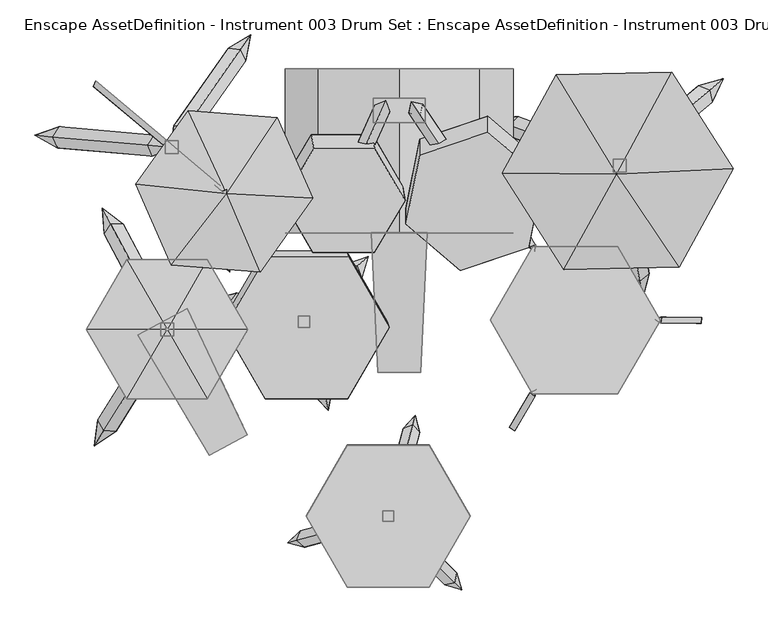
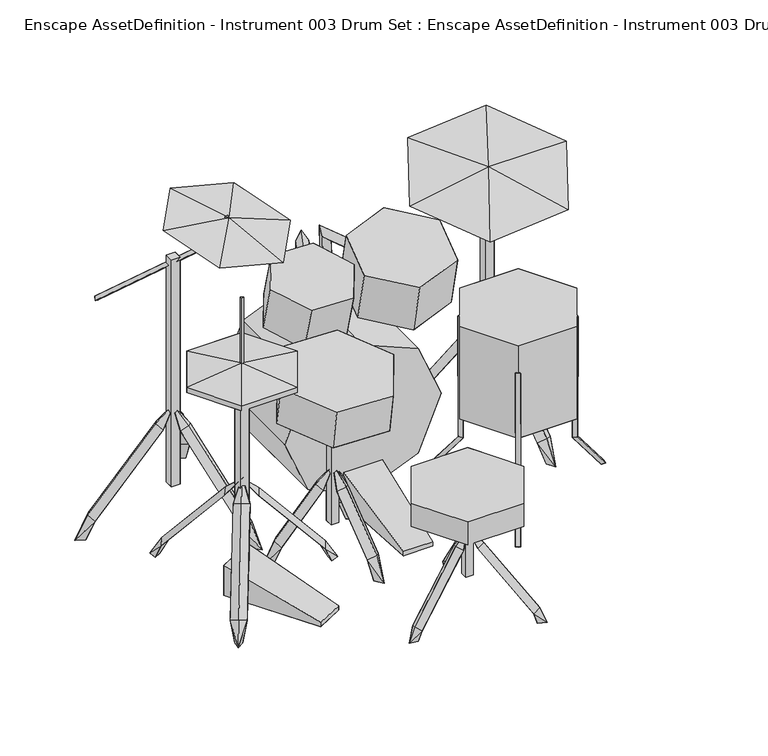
"""IFC4 building model written with IfcOpenShell, lengths in millimetres: geographic element geometry, Enscape AssetDefinition - Instrument 003 Drum Set : Enscape AssetDefinition - Instrument 003 Drum Set."""

from ifc_helpers import new_model, si_unit, origin, place, context, project, spatial, triangles, source, transform, mapped, element, save


def enscape_assetdefinition_instrument_003_drum_set_enscape_302b556b(model_context):
    return source(origin(), model_context, "Body", "Tessellation", [
        triangles([(-50.4830014, -306.7600184, 0.0), (50.8199994, -306.7600184, 15.259), (-66.1860037, 22.1500015, 109.8880055), (-50.4830014, -306.7600184, 15.259), (-66.1860037, 22.1500015, 0.0), (50.8199994, -306.7600184, 0.0), (66.5230016, 22.1500015, 0.0), (66.5230016, 22.1500015, 109.8880055), (268.3070058, 407.7799788, 280.0000058), (189.7239936, 407.7799788, 90.2839968), (268.3070058, 20.9369987, 280.0000058), (189.7239936, 20.9369987, 469.7160238), (189.7239936, 407.7799788, 469.7160238), (0.008, 407.7799788, 548.2990179), (0.008, 20.9369987, 548.2980005), (0.008, 407.7799788, 11.7019997), (0.008, 20.9369987, 11.7019997), (189.7239936, 20.9369987, 90.2839968), (-189.707988, 20.9369987, 469.7160238), (-268.2900192, 20.9369987, 280.0000058), (-189.707988, 20.9369987, 90.2839968), (0.008, 20.9369987, 280.0000058), (-189.707988, 407.7799788, 469.7160238), (0.008, 407.7799788, 280.0000058), (-268.2900192, 407.7799788, 280.0000058), (-189.707988, 407.7799788, 90.2839968), (-549.8189833, 237.5389893, 113.2869986), (-519.2540248, 237.5389893, 113.2869986), (-549.8189833, 206.9729952, 113.2869986), (-519.2540248, 206.9729952, 113.2869986), (-519.2540248, 206.9729952, 936.1980154), (-549.8189833, 206.9729952, 936.1980154), (-549.8189833, 237.5389893, 936.1980154), (-519.2540248, 237.5389893, 936.1980154), (-856.1669992, 250.5500047, -0.451), (-827.0870155, 236.4549893, -0.427), (-825.0199905, 260.0800007, -0.427), (-803.0210426, 220.5319968, 68.1940025), (-798.6160063, 270.8840106, 68.1940025), (-813.8920361, 246.8519928, 79.2059938), (-576.210977, 251.426005, 334.2579766), (-580.6169944, 201.0740094, 334.2579766), (-591.4870068, 227.3940053, 345.2700225), (-529.9990085, 222.0139921, 401.0599674), (-375.9649876, 468.5130086, -0.427), (-360.3839982, 426.6420178, 68.1940025), (-356.538012, 454.9110045, -0.427), (-401.7870306, 455.6330172, 68.1940025), (-349.2169836, 486.6490019, -0.451), (-373.5580124, 451.8870249, 79.2059938), (-501.6120057, 269.0089979, 345.2700225), (-488.4370105, 243.7629916, 334.2579766), (-529.8410239, 272.7540091, 334.2579766), (-537.0140236, 218.4480034, 401.0599674), (-400.5570185, -38.1989992, -0.427), (-422.051019, -48.2220021, -0.427), (-398.8009847, -9.396, 68.1940025), (-416.1590095, -31.971, 79.2059938), (-444.6099981, -30.7570003, 68.1940025), (-398.2250024, -70.4310026, -0.451), (-493.1519843, 192.9410029, 334.2579766), (-510.5100454, 170.366, 345.2700225), (-538.9609978, 171.5800066, 334.2579766), (-536.5949721, 226.3060085, 401.0599674), (-619.5290451, 135.2899979, 1110.9470146), (-535.4790155, -54.7260019, 1061.6689905), (-327.1220023, -71.203003, 1017.9090162), (-286.8640127, 292.3539937, 1072.7059622), (-495.2209714, 308.831004, 1116.4660091), (-202.8150005, 102.338003, 1023.4269934), (-405.4939991, 113.8270002, 1096.0999557), (-427.2279922, 138.2929941, 1020.4390217), (-420.3630043, 132.5410014, 1007.6119703), (-432.5009989, 125.0350006, 1014.0219715), (-713.7589766, 378.5549821, 759.2430462), (-706.8939886, 372.7979934, 746.4170122), (-719.0319832, 365.2940183, 752.8299929), (-415.7019879, 118.1809949, 1102.3010307), (-404.8030166, 122.2589982, 1100.7989422), (-433.212983, 133.0440049, 1015.5260221), (-424.5650007, 125.7040096, 1012.5230804), (-407.0540056, 110.8419989, 1099.2980164), (-422.3129943, 137.1210089, 1014.0240063), (502.5060282, 195.1770038, 113.2869986), (533.0709867, 195.1770038, 113.2869986), (502.5060282, 164.6109916, 113.2869986), (533.0709867, 164.6109916, 113.2869986), (502.5060282, 164.6109916, 931.5999676), (502.5060282, 195.1770038, 931.5999676), (533.0709867, 195.1770038, 931.5999676), (533.0709867, 164.6109916, 931.5999676), (746.7989656, 355.0849757, -0.229), (762.0850239, 383.8480093, -0.253), (735.7680256, 328.7749901, 68.3920009), (731.5549833, 373.2519991, -0.229), (703.2790203, 367.493993, 68.3920009), (729.5759617, 356.5700232, 79.4039923), (558.5539879, 213.0649926, 345.4680119), (532.2559928, 223.989998, 334.4560023), (564.7460155, 185.2699958, 334.4560023), (511.2710092, 173.3909971, 401.2590105), (251.5630061, 290.6270097, -0.229), (219.0109959, 289.4840017, -0.253), (243.4520004, 268.3419964, -0.229), (279.8640221, 294.2290064, 68.3920009), (258.8880132, 274.9699894, 79.4039923), (472.3669885, 170.3750111, 334.4560023), (262.5760148, 246.7329957, 68.3920009), (489.6540147, 217.8719848, 334.4560023), (468.6780058, 198.6120049, 345.4680119), (526.6789713, 177.5020107, 401.2590105), (578.3589927, -101.9130017, -0.229), (537.7330204, -83.3230027, 68.3920009), (555.0030055, -106.0310007, -0.229), (572.2699748, -133.6500089, -0.253), (498.966019, 136.5399942, 334.4560023), (587.5099966, -74.5460039, 68.3920009), (548.7420141, 145.3170021, 334.4560023), (564.9009842, -91.8580014, 79.4039923), (526.1330017, 128.0039964, 345.4680119), (515.4150149, 188.7890034, 401.2590105), (784.7480301, 172.3250011, 921.9989548), (242.3739957, 161.537996, 881.5610161), (386.5180135, -64.993998, 838.1340157), (511.3869905, 159.5820107, 932.9010509), (369.4170224, 393.4639921, 945.2069859), (640.6039942, 398.8570132, 965.4260279), (657.7049852, -59.6009996, 858.352985), (-446.7490027, -501.7089838, 0.0), (-615.0280117, -218.6709912, 0.0), (-446.7490027, -501.7089838, 15.259), (-357.3030089, -454.1500045, 0.0), (-497.8519881, -156.3669999, 0.0), (-497.8519881, -156.3669999, 109.8880055), (-357.3030089, -454.1500045, 15.259), (-615.0280117, -218.6709912, 109.8880055), (-560.982001, -220.997012, 754.8380098), (-560.982001, -220.997012, 87.5810004), (-560.982001, -190.4319991, 87.5810004), (-530.4160252, -190.4319991, 754.8380098), (-530.4160252, -220.997012, 754.8380098), (-530.4160252, -220.997012, 87.5810004), (-530.4160252, -190.4319991, 87.5810004), (-560.982001, -190.4319991, 754.8380098), (-692.1459789, -463.0230094, 3.6609999), (-712.2579781, -450.4560076, 3.6609999), (-716.4389729, -479.5240007, 3.1840001), (-693.9510286, -443.5349911, 75.9790015), (-665.5640259, -445.798007, 64.9670011), (-708.4280519, -419.0139951, 64.9670011), (-590.1219738, -229.684, 331.0309934), (-575.6440058, -254.204996, 342.0419855), (-547.2580204, -256.4679937, 331.0309934), (-542.9360095, -201.860989, 397.8329842), (-695.3119921, 49.7659985, 3.6609999), (-674.3719912, 60.8999982, 3.6609999), (-649.0569666, 41.8629971, 64.9670011), (-697.4549572, 79.0549947, 3.1840001), (-572.7210011, -155.5360004, 342.0419855), (-677.5320454, 41.584998, 75.9790015), (-693.6860012, 18.1329991, 64.9670011), (-588.8739758, -178.9880028, 331.0309934), (-544.2460313, -155.2590006, 331.0309934), (-543.744027, -210.0340003, 397.8329842), (-250.4679784, -227.5879978, 3.6609999), (-223.2039994, -216.6750011, 3.1840001), (-249.6399948, -203.8869917, 3.6609999), (-265.6149827, -215.1940051, 75.9790015), (-277.8480114, -189.4789867, 64.9670011), (-279.6120026, -239.9930001, 64.9670011), (-502.7299971, -232.2009975, 331.0309934), (-500.9660059, -181.6870023, 331.0309934), (-488.7329953, -207.4020025, 342.0419855), (-550.4180019, -205.2479915, 397.8329842), (-356.1169985, -205.7150052, 789.2019733), (-356.1169985, -205.7150052, 770.3300148), (-450.9080149, -41.5309997, 789.2019733), (-450.9080149, -41.5309997, 770.3300148), (-450.9080149, -369.8979887, 770.3300148), (-545.6989949, -205.7150052, 745.0439856), (-735.2820087, -205.7150052, 770.3300148), (-640.4909924, -41.5309997, 770.3300148), (-640.4909924, -41.5309997, 789.2019733), (-640.489975, -369.8979887, 789.2019733), (-545.6989949, -205.7150052, 812.4669777), (-450.9080149, -369.8979887, 789.2019733), (-640.489975, -369.8979887, 770.3300148), (-735.2820087, -205.7150052, 789.2019733), (-548.6990298, -200.5189924, 1048.7600401), (-539.6999788, -205.7150052, 1048.7600401), (-539.6999788, -205.7150052, 804.1070229), (-548.6990298, -210.9100006, 804.1070229), (-548.6990298, -200.5189924, 804.1070229), (-548.6990298, -210.9100006, 1048.7600401), (-122.0910034, -478.2310201, 370.3599881), (70.5650015, -811.9210081, 370.3599881), (-218.4190081, -645.0759596, 370.3599881), (70.5650015, -811.9210081, 454.0000136), (-122.0910034, -811.9210081, 370.3599881), (-218.4190081, -645.0759596, 454.0000136), (70.5650015, -478.2310201, 370.3599881), (-122.0910034, -811.9210081, 454.0000136), (70.5650015, -478.2310201, 454.0000136), (166.8930107, -645.0759596, 370.3599881), (-122.0910034, -478.2310201, 454.0000136), (166.8930107, -645.0759596, 454.0000136), (-38.6210029, -632.2180235, 129.9599998), (-12.9050001, -657.934041, 129.9599998), (-12.9050001, -657.934041, 374.3360172), (-38.6210029, -657.934041, 374.3360172), (-38.6210029, -657.934041, 129.9599998), (-38.6210029, -632.2180235, 374.3360172), (-12.9050001, -632.2180235, 374.3360172), (-12.9050001, -632.2180235, 129.9599998), (119.8239997, -807.9559885, 0.029), (147.2059947, -818.5679861, -0.448), (135.7570024, -778.9440239, 38.1599982), (136.5929979, -791.1860092, 0.029), (130.9490019, -802.3109842, 49.1719986), (107.580997, -807.1189756, 38.1599982), (-14.2670003, -685.2710352, 243.522999), (13.9079992, -657.0949934, 243.522999), (9.1000004, -680.4630438, 254.5349904), (-26.3550002, -645.0080132, 296.522998), (-262.495987, -708.1250181, -0.448), (-232.7690042, -679.5330133, 38.1599982), (-239.614989, -689.7169847, 0.029), (-233.4759923, -712.6250341, 0.029), (-222.4559891, -718.0220158, 38.1599982), (-73.8409961, -657.5749786, 254.5349904), (-240.2890031, -702.1740005, 49.1719986), (-56.0080003, -673.4219765, 243.522999), (-66.3210018, -634.9339914, 243.522999), (-25.407999, -644.5969917, 296.522998), (42.5020024, -437.5539971, 0.029), (19.5940007, -431.4159997, 0.029), (9.4100003, -438.2610034, 38.1599982), (38.002, -408.5340025, -0.448), (47.8990022, -448.5740004, 38.1599982), (3.2990001, -615.0229975, 243.522999), (-35.1889995, -604.7100005, 243.522999), (32.0510006, -430.7419856, 49.1719986), (-12.5490001, -597.190038, 254.5349904), (-25.5259992, -645.6220018, 296.522998), (-28.5039992, -187.953989, 522.8120198), (-222.3480015, -188.1310131, 529.578976), (-124.9660005, -20.986001, 543.7449718), (-120.2569947, -35.1309997, 678.2670296), (-314.1020122, -35.3079988, 685.0339857), (-217.640004, -202.2760072, 664.1010338), (-23.7950002, -202.0990013, 657.334005), (-121.1770057, -369.2449762, 643.1669918), (-125.8859934, -355.1000184, 508.6450067), (-319.7309927, -355.2770061, 515.4119628), (-416.193019, -188.309, 536.3449874), (-318.8109907, -21.1630001, 550.5120006), (-411.4840041, -202.4539942, 670.8670452), (-315.0219778, -369.4220003, 649.9340206), (-237.7579984, -201.2910019, 113.2869986), (-237.7579984, -173.9979913, 113.2869986), (-210.4679854, -201.2910019, 113.2869986), (-210.4679854, -201.2910019, 553.3049623), (-237.7579984, -201.2910019, 553.3049623), (-210.4679854, -173.9979913, 113.2869986), (-237.7579984, -173.9979913, 553.3049623), (-210.4679854, -173.9979913, 553.3049623), (-167.099993, -363.6560005, -3.8920002), (-189.1859995, -372.1139872, -2.133), (-156.0540102, -339.4439973, 65.6299966), (-203.1259917, -357.4709856, 69.3799993), (-173.8680028, -361.3860083, 77.1800001), (-167.2710036, -395.9070116, -5.9520003), (-235.8919968, -233.3859906, 254.5689999), (-188.8199972, -215.3590023, 250.8189926), (-206.6340079, -237.3010132, 262.3690144), (-222.4340065, -183.2949892, 323.6560075), (-401.3320075, -125.6570103, -2.133), (-381.6809904, -120.9070004, 69.3799993), (-405.0510029, -149.0129974, -3.8920002), (-399.699985, -144.287005, 77.1800001), (-432.8950155, -132.7400082, -5.9520003), (-389.6060154, -170.6849849, 65.6299966), (-257.8370054, -154.572996, 254.5689999), (-275.8559818, -177.9530006, 262.3690144), (-265.7609948, -204.352007, 250.8189926), (-221.1859903, -191.2730088, 323.6560075), (-100.187998, -50.2640013, -3.8920002), (-81.821005, -65.1620019, -2.133), (-87.5329928, -84.5550042, 69.3799993), (-126.6800038, -52.8029997, 65.6299966), (-72.1739967, -34.286, -5.9520003), (-189.8490041, -147.6790036, 262.3690144), (-217.7580019, -143.2220083, 250.8189926), (-98.7709969, -57.2599996, 77.1800001), (-178.610991, -174.9739855, 254.5689999), (-228.7199963, -188.363993, 323.6560075), (614.1330082, -184.3509931, 329.4250231), (313.8099878, -10.9590002, 329.4250231), (514.0249835, -10.9590002, 664.4249966), (514.0249835, -10.9590002, 329.4250231), (313.8099878, -10.9590002, 664.4249966), (514.0249835, -357.7429893, 329.4250231), (514.0249835, -357.7429893, 664.4249966), (614.1330082, -184.3509931, 664.4249966), (313.8099878, -357.7429893, 329.4250231), (413.9169951, -184.3509931, 329.4250231), (213.7019995, -184.3509931, 664.4249966), (313.8099878, -357.7429893, 664.4249966), (413.9169951, -184.3509931, 664.4249966), (213.7019995, -184.3509931, 329.4250231), (601.2889884, -182.264002, 125.6490075), (602.6430119, -183.2839979, 566.3099825), (616.5659992, -177.3789986, 566.2810235), (613.3769497, -191.3779987, 129.6889953), (699.8019796, -183.2959884, -5.218), (615.2259647, -176.3689948, 130.2710001), (709.4249388, -192.3840056, 2.0969999), (614.7180016, -192.3890017, 566.2519918), (710.9419973, -177.3719859, 3.1210001), (322.0389914, -347.6629724, 125.6490075), (318.6309872, -363.3350172, 566.2810235), (271.8890001, -432.4620114, -5.218), (259.2070162, -436.2510243, 2.0969999), (320.4780038, -348.3250322, 566.3099825), (306.5559975, -354.229977, 566.2519918), (308.102015, -353.5740214, 129.6889953), (320.1759873, -362.67997, 130.2710001), (271.4490016, -445.0710165, 3.1210001), (306.3509954, -14.0040008, 130.2710001), (318.4239867, -23.1260003, 125.6490075), (270.0620041, 62.7050025, -5.218), (320.2730018, -8.1000001, 129.6889953), (318.6309872, -21.4429998, 566.3099825), (306.5559975, -12.3389997, 566.2810235), (320.4780038, -6.4330001, 566.2519918), (273.1209925, 75.5830046, 2.0969999), (259.3620031, 69.3900005, 3.1210001), (336.8049869, 149.3099906, 806.2530401), (336.8040058, 186.7679967, 630.0280409), (208.7090085, 295.6860033, 653.1799707), (48.2279974, 204.1779987, 817.915991), (48.2270027, 241.6359957, 641.6910645), (176.3229947, 132.716999, 618.5389893), (208.7090085, 258.2280062, 829.4050426), (304.4190094, -13.659, 771.6130033), (304.4190094, 23.7989993, 595.3880041), (15.8419995, 78.6660014, 607.0510277), (176.3229947, 95.259002, 794.7650059), (15.8419995, 41.208999, 783.2760269), (143.9380074, -67.7099977, 760.1249691), (143.9370082, -30.2520007, 583.8990252), (61.3019995, 280.6589953, 557.0679957), (-61.2859985, 280.6589953, 557.0679957), (-61.2859985, 337.8190238, 517.4589672), (-61.2859985, 280.6589953, 517.4589672), (61.3019995, 280.6589953, 517.4589672), (61.3019995, 337.8190238, 517.4589672), (61.3019995, 337.8190238, 557.0679957), (-61.2859985, 337.8190238, 557.0679957), (8.3410005, 130.3240037, 632.4020239), (-57.1260007, 218.6470101, 818.4090569), (13.845, 96.8020037, 790.0160225), (-206.37999, 252.1690192, 665.815028), (-62.629998, 252.1690192, 660.7949856), (-129.9049977, 96.8020037, 795.0359922), (-58.9339981, -25.0430004, 766.6429579), (-64.4379999, 8.4790002, 609.0289956), (-208.188001, 8.4790002, 614.0490017), (-135.408995, 130.3240037, 637.4219936), (-200.8760018, 218.6470101, 823.4289539), (-202.6839947, -25.0430004, 771.6630003), (-273.6549897, 96.8020037, 800.055962), (-279.1590142, 130.3240037, 642.4419634), (57.8700006, 319.4989938, 553.101014), (55.0280002, 323.7569824, 763.7429895), (50.0090024, 296.5190193, 740.4389614), (82.3110005, 213.8070076, 743.8649878), (25.7709992, 298.0740116, 553.101014), (52.5300013, 292.7420151, 553.5699898), (100.3499976, 221.6359992, 762.7859985), (27.9469996, 329.5719981, 787.15595), (22.9270004, 302.3340168, 763.8530119), (114.3509962, 235.3199932, 743.7750223), (31.1110007, 324.8319895, 552.6319656), (96.3119991, 227.4910016, 724.8540115), (-49.3729992, 291.7830075, 553.5699898), (-23.8509992, 301.4340172, 553.101014), (-21.7470011, 306.1010107, 763.7429895), (-81.506998, 220.0759927, 724.8540115), (-100.5319995, 224.6990026, 743.8649878), (-56.9250001, 321.9710086, 763.8530119), (-47.5060029, 295.9229982, 740.4389614), (-59.0309989, 317.3019985, 553.101014), (-31.1660006, 332.1480037, 787.15595), (-84.3339966, 213.549011, 762.7859985), (-33.5100004, 326.9530083, 552.6319656), (-65.3090042, 208.9270002, 743.7750223)], [[388, 397, 389], [388, 387, 396], [394, 395, 397], [397, 388, 394], [396, 394, 388], [394, 396, 393], [391, 390, 395], [395, 394, 391], [393, 391, 394], [391, 393, 386], [392, 389, 390], [390, 391, 392], [389, 392, 388], [386, 392, 391], [387, 388, 392], [392, 386, 387], [375, 383, 385], [375, 374, 384], [381, 380, 383], [383, 375, 381], [384, 381, 375], [381, 384, 378], [382, 377, 380], [380, 381, 382], [378, 382, 381], [382, 378, 379], [376, 385, 377], [377, 382, 376], [385, 376, 375], [379, 376, 382], [374, 375, 376], [376, 379, 374], [371, 372, 373], [373, 368, 371], [366, 371, 368], [371, 366, 365], [372, 371, 365], [370, 372, 365], [372, 370, 363], [363, 373, 372], [373, 363, 369], [368, 373, 369], [367, 368, 369], [368, 367, 366], [366, 362, 365], [362, 366, 367], [361, 370, 365], [362, 361, 365], [363, 364, 369], [370, 361, 364], [364, 363, 370], [360, 367, 369], [364, 360, 369], [367, 360, 362], [361, 362, 360], [360, 364, 361], [357, 354, 359], [359, 358, 357], [356, 357, 358], [358, 352, 356], [355, 356, 352], [353, 359, 354], [354, 355, 353], [352, 353, 355], [358, 359, 353], [353, 352, 358], [350, 349, 347], [347, 351, 350], [345, 350, 351], [350, 345, 348], [349, 350, 348], [341, 349, 348], [349, 341, 342], [342, 347, 349], [347, 342, 343], [351, 347, 343], [346, 351, 343], [351, 346, 345], [345, 338, 348], [338, 345, 346], [344, 341, 348], [338, 344, 348], [342, 340, 343], [341, 344, 340], [340, 342, 341], [339, 346, 343], [340, 339, 343], [346, 339, 338], [344, 338, 339], [339, 340, 344], [336, 331, 337], [332, 336, 337], [337, 329, 332], [329, 337, 331], [335, 332, 329], [329, 334, 335], [333, 335, 334], [332, 335, 333], [330, 331, 336], [336, 332, 330], [331, 330, 329], [333, 330, 332], [334, 329, 330], [330, 333, 334], [323, 322, 328], [326, 323, 328], [328, 327, 326], [327, 328, 322], [325, 326, 327], [327, 321, 325], [324, 325, 321], [326, 325, 324], [320, 322, 323], [323, 326, 320], [322, 320, 327], [324, 320, 326], [321, 327, 320], [320, 324, 321], [317, 315, 319], [314, 317, 319], [319, 316, 314], [316, 319, 315], [318, 314, 316], [316, 313, 318], [312, 318, 313], [314, 318, 312], [311, 315, 317], [317, 314, 311], [315, 311, 316], [312, 311, 314], [313, 316, 311], [311, 312, 313], [308, 307, 310], [310, 305, 308], [303, 308, 305], [308, 303, 309], [307, 308, 309], [301, 307, 309], [307, 301, 298], [298, 310, 307], [310, 298, 306], [305, 310, 306], [302, 305, 306], [305, 302, 303], [303, 304, 309], [304, 303, 302], [299, 301, 309], [304, 299, 309], [298, 300, 306], [301, 299, 300], [300, 298, 301], [297, 302, 306], [300, 297, 306], [302, 297, 304], [299, 304, 297], [297, 300, 299], [293, 295, 296], [295, 292, 296], [292, 293, 296], [293, 292, 294], [295, 293, 290], [294, 290, 293], [292, 295, 289], [289, 294, 292], [290, 289, 295], [290, 294, 291], [294, 289, 291], [289, 290, 287], [290, 291, 287], [289, 288, 291], [287, 288, 289], [288, 287, 291], [285, 283, 286], [283, 284, 286], [284, 285, 286], [285, 284, 280], [283, 285, 282], [280, 282, 285], [284, 283, 278], [278, 280, 284], [282, 278, 283], [282, 280, 281], [280, 278, 281], [278, 282, 279], [282, 281, 279], [278, 277, 281], [279, 277, 278], [277, 279, 281], [274, 273, 276], [273, 275, 276], [275, 274, 276], [274, 275, 271], [273, 274, 269], [271, 269, 274], [275, 273, 270], [270, 271, 275], [269, 270, 273], [269, 271, 272], [271, 270, 272], [270, 269, 267], [269, 272, 267], [270, 268, 272], [267, 268, 270], [268, 267, 272], [266, 262, 261], [265, 266, 264], [261, 264, 266], [263, 265, 260], [264, 260, 265], [260, 259, 263], [262, 263, 259], [259, 261, 262], [264, 261, 259], [259, 260, 264], [258, 257, 255], [255, 254, 258], [252, 258, 254], [258, 252, 250], [257, 258, 250], [249, 257, 250], [257, 249, 256], [256, 255, 257], [255, 256, 246], [254, 255, 246], [253, 254, 246], [254, 253, 252], [252, 251, 250], [251, 252, 253], [248, 249, 250], [251, 248, 250], [256, 247, 246], [249, 248, 247], [247, 256, 249], [245, 253, 246], [247, 245, 246], [253, 245, 251], [248, 251, 245], [245, 247, 248], [241, 240, 244], [240, 243, 244], [243, 241, 244], [241, 243, 242], [240, 241, 237], [242, 237, 241], [243, 240, 239], [239, 242, 243], [237, 239, 240], [238, 242, 239], [237, 242, 238], [239, 237, 236], [238, 236, 237], [236, 235, 239], [239, 235, 238], [235, 236, 238], [232, 233, 234], [233, 230, 234], [230, 232, 234], [232, 230, 231], [233, 232, 229], [231, 229, 232], [230, 233, 226], [226, 231, 230], [229, 226, 233], [225, 231, 226], [229, 231, 225], [226, 229, 228], [225, 228, 229], [228, 227, 226], [226, 227, 225], [227, 228, 225], [222, 221, 224], [221, 223, 224], [223, 222, 224], [222, 223, 219], [221, 222, 217], [219, 217, 222], [223, 221, 220], [220, 219, 223], [217, 220, 221], [216, 219, 220], [217, 219, 216], [220, 217, 218], [216, 218, 217], [218, 215, 220], [220, 215, 216], [215, 218, 216], [213, 209, 208], [212, 213, 214], [208, 214, 213], [210, 212, 207], [214, 207, 212], [207, 211, 210], [209, 210, 211], [211, 208, 209], [214, 208, 211], [211, 207, 214], [206, 203, 205], [205, 203, 201], [203, 206, 204], [204, 201, 203], [196, 204, 206], [206, 198, 196], [198, 206, 202], [206, 205, 202], [205, 200, 202], [200, 205, 195], [201, 195, 205], [195, 201, 204], [202, 200, 197], [195, 197, 200], [198, 202, 199], [199, 196, 198], [197, 199, 202], [196, 199, 204], [199, 195, 204], [199, 197, 195], [190, 194, 192], [194, 190, 189], [194, 189, 193], [193, 192, 194], [192, 191, 190], [189, 190, 191], [191, 193, 189], [184, 188, 181], [181, 187, 184], [186, 184, 187], [184, 186, 185], [188, 184, 185], [183, 188, 185], [188, 183, 182], [182, 181, 188], [181, 182, 180], [187, 181, 180], [179, 187, 180], [187, 179, 186], [186, 175, 185], [175, 186, 179], [177, 183, 185], [175, 177, 185], [182, 178, 180], [183, 177, 178], [178, 182, 183], [176, 179, 180], [178, 176, 180], [179, 176, 175], [177, 175, 176], [176, 178, 177], [172, 171, 174], [171, 173, 174], [173, 172, 174], [172, 173, 168], [171, 172, 169], [168, 169, 172], [173, 171, 170], [170, 168, 173], [169, 170, 171], [166, 168, 170], [169, 168, 166], [170, 169, 167], [166, 167, 169], [167, 165, 170], [170, 165, 166], [165, 167, 166], [162, 163, 164], [163, 159, 164], [159, 162, 164], [162, 159, 160], [163, 162, 161], [160, 161, 162], [159, 163, 157], [157, 160, 159], [161, 157, 163], [158, 160, 157], [161, 160, 158], [157, 161, 155], [158, 155, 161], [155, 156, 157], [157, 156, 158], [156, 155, 158], [153, 151, 154], [151, 152, 154], [152, 153, 154], [153, 152, 148], [151, 153, 149], [148, 149, 153], [152, 151, 150], [150, 148, 152], [149, 150, 151], [147, 148, 150], [149, 148, 147], [150, 149, 145], [147, 145, 149], [145, 146, 150], [150, 146, 147], [146, 145, 147], [137, 144, 139], [144, 140, 143], [143, 139, 144], [140, 141, 142], [142, 143, 140], [139, 138, 137], [141, 137, 138], [138, 142, 141], [134, 136, 131], [131, 135, 134], [134, 135, 132], [136, 134, 133], [132, 133, 134], [131, 136, 130], [133, 130, 136], [130, 129, 131], [135, 131, 129], [129, 132, 135], [133, 132, 129], [129, 130, 133], [128, 122, 125], [122, 127, 125], [127, 126, 125], [126, 127, 122], [126, 123, 125], [124, 128, 125], [123, 124, 125], [128, 124, 122], [124, 126, 122], [124, 123, 126], [118, 116, 121], [116, 120, 121], [120, 118, 121], [118, 120, 119], [116, 118, 117], [119, 117, 118], [120, 116, 113], [113, 119, 120], [117, 113, 116], [117, 119, 115], [119, 113, 115], [113, 117, 112], [117, 115, 112], [113, 114, 115], [112, 114, 113], [114, 112, 115], [107, 109, 111], [109, 110, 111], [110, 107, 111], [107, 110, 106], [109, 107, 108], [106, 108, 107], [110, 109, 105], [105, 106, 110], [108, 105, 109], [108, 106, 103], [106, 105, 103], [105, 108, 104], [108, 103, 104], [105, 102, 103], [104, 102, 105], [102, 104, 103], [99, 100, 101], [100, 98, 101], [98, 99, 101], [99, 98, 97], [100, 99, 96], [97, 96, 99], [98, 100, 94], [94, 97, 98], [96, 94, 100], [96, 97, 93], [97, 94, 93], [94, 96, 95], [96, 93, 95], [94, 92, 93], [95, 92, 94], [92, 95, 93], [90, 89, 88], [88, 91, 90], [90, 91, 87], [89, 90, 85], [87, 85, 90], [88, 89, 84], [85, 84, 89], [84, 86, 88], [91, 88, 86], [86, 87, 91], [85, 87, 86], [86, 84, 85], [82, 81, 83], [83, 79, 82], [78, 82, 79], [81, 82, 78], [81, 80, 83], [78, 80, 81], [79, 83, 80], [80, 78, 79], [76, 73, 74], [74, 77, 76], [75, 76, 77], [73, 76, 75], [73, 72, 74], [75, 72, 73], [77, 74, 72], [72, 75, 77], [67, 70, 71], [70, 68, 71], [68, 69, 71], [69, 68, 70], [69, 65, 71], [66, 67, 71], [65, 66, 71], [67, 66, 70], [66, 69, 70], [66, 65, 69], [61, 63, 64], [63, 62, 64], [62, 61, 64], [61, 62, 58], [63, 61, 57], [58, 57, 61], [62, 63, 59], [59, 58, 62], [57, 59, 63], [57, 58, 60], [58, 59, 60], [59, 57, 55], [57, 60, 55], [59, 56, 60], [55, 56, 59], [56, 55, 60], [53, 52, 54], [52, 51, 54], [51, 53, 54], [53, 51, 50], [52, 53, 48], [50, 48, 53], [51, 52, 46], [46, 50, 51], [48, 46, 52], [48, 50, 49], [50, 46, 49], [46, 48, 45], [48, 49, 45], [46, 47, 49], [45, 47, 46], [47, 45, 49], [42, 41, 44], [41, 43, 44], [43, 42, 44], [42, 43, 40], [41, 42, 38], [40, 38, 42], [43, 41, 39], [39, 40, 43], [38, 39, 41], [38, 40, 35], [40, 39, 35], [39, 38, 36], [38, 35, 36], [39, 37, 35], [36, 37, 39], [37, 36, 35], [34, 33, 32], [32, 31, 34], [34, 31, 30], [33, 34, 28], [30, 28, 34], [32, 33, 27], [28, 27, 33], [27, 29, 32], [31, 32, 29], [29, 30, 31], [28, 30, 29], [29, 27, 28], [26, 25, 24], [16, 26, 24], [26, 16, 17], [17, 21, 26], [25, 26, 21], [21, 20, 25], [25, 23, 24], [23, 25, 20], [23, 14, 24], [20, 19, 23], [14, 23, 19], [19, 15, 14], [21, 17, 22], [20, 21, 22], [19, 20, 22], [15, 19, 22], [17, 18, 22], [18, 17, 16], [10, 16, 24], [16, 10, 18], [18, 11, 22], [11, 18, 10], [12, 15, 22], [11, 12, 22], [14, 13, 24], [15, 12, 13], [13, 14, 15], [9, 10, 24], [13, 9, 24], [10, 9, 11], [12, 11, 9], [9, 13, 12], [8, 3, 4], [4, 2, 8], [8, 2, 6], [3, 8, 7], [6, 7, 8], [4, 3, 5], [7, 5, 3], [5, 1, 4], [2, 4, 1], [1, 6, 2], [7, 6, 1], [1, 5, 7]], closed=False),
    ])


if __name__ == "__main__":
    model = new_model("IFC4")
    model_context = context("Model", 3, world=origin())
    ifc_project = project(units=[si_unit("LENGTHUNIT", "METRE", prefix="MILLI")], contexts=[model_context])
    site = spatial("IfcSite", under=ifc_project)
    building = spatial("IfcBuilding", under=site)
    placement = place(None, origin())
    enscape_assetdefinition_instrument_003_drum_set_enscape_shape = enscape_assetdefinition_instrument_003_drum_set_enscape_302b556b(model_context)
    element("IfcGeographicElement", 1, ObjectType="Enscape AssetDefinition - Instrument 003 Drum Set : Enscape AssetDefinition - Instrument 003 Drum Set", at=placement, inside=building, context=model_context, shape_type="MappedRepresentation", body=[
        mapped(enscape_assetdefinition_instrument_003_drum_set_enscape_shape, transform((0.0, 0.0, 0.0), x_axis=(1.0, 0.0, 0.0), y_axis=(0.0, 1.0, 0.0), z_axis=(0.0, 0.0, 1.0))),
    ])
    save(model, "model.ifc")
